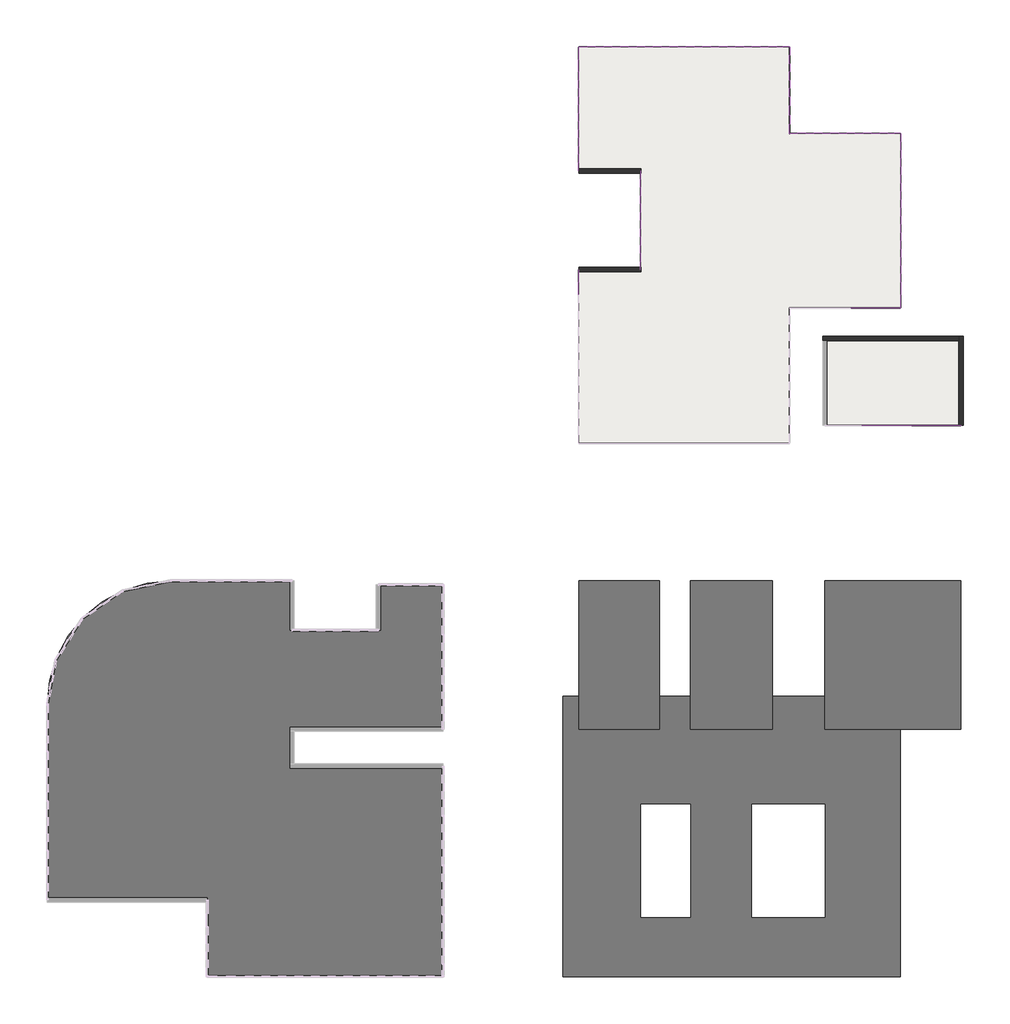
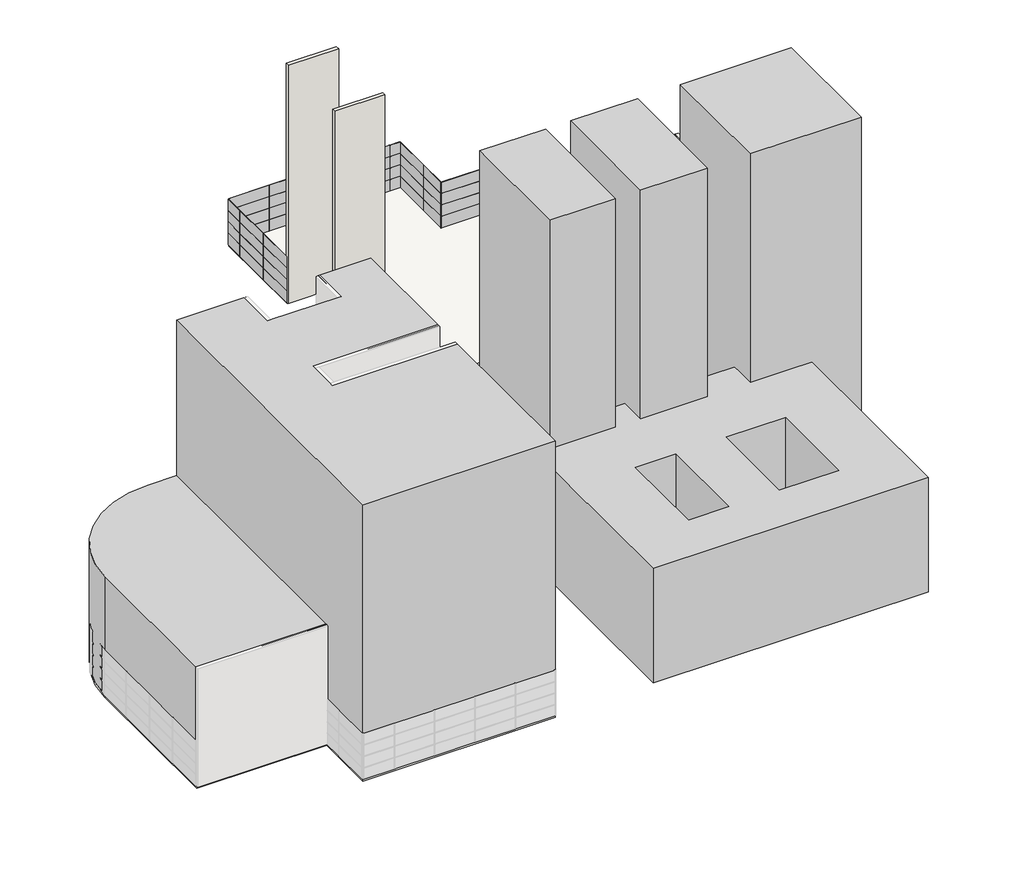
# One storey, part 5 of 5: 91 plates, 4 walls, 2 proxies, 2 slabs.
"""IFC4 building model written with IfcOpenShell, lengths in millimetres."""

from ifc_helpers import new_model, si_unit, point, frame, frame_2d, origin, origin_with_axes, place, context, project, spatial, polyline, circle_curve, trimmed, segment, composite_curve, outline, extrude, faceted_brep, transform, mapped, element, save
from ifc_brep_helpers import plane_surface, cylinder_surface, advanced_brep
from components import system_panel_glazed_d6eabcf1, system_panel_glazed_926b6355, system_panel_glazed_d9fb9d0a, system_panel_glazed_4df6a082, system_panel_glazed_76089698

model = new_model("IFC4")

# Units and contexts
model_context = context("Model", 3, world=origin())
ifc_project = project(units=[si_unit("LENGTHUNIT", "METRE", prefix="MILLI")], contexts=[model_context])

# Site, building, storey
site = spatial("IfcSite", under=ifc_project)
building = spatial("IfcBuilding", under=site)
storey = spatial("IfcBuildingStorey", under=building, Name="Suteren", Elevation=0.0)

# Proxies
placement = place(None, origin())
element("IfcBuildingElementProxy", 1, Name="Budova 3 : Budova 3", ObjectType="Budova 3 : Budova 3", at=placement, inside=storey, context=model_context, shape_type="AdvancedBrep", body=[
    advanced_brep(
    [(-5587.173406, 8375.9839566, 28773.2453384), (-5587.173406, -23624.0160434, 28773.2453384), (13503.2660975, -23624.0160434, 28773.2453384), (13503.2660975, -6624.0160434, 28773.2453384), (1278.419219, -6624.0160434, 28773.2453384), (1278.419219, -3624.0160434, 28773.2453384), (13503.2660975, -3624.0160434, 28773.2453384), (13503.2660975, 8039.3555415, 28773.2453384), (8278.419219, 8039.3555415, 28773.2453384), (8278.419219, 4375.9839566, 28773.2453384), (1278.419219, 4375.9839566, 28773.2453384), (1278.419219, 8375.9839566, 28773.2453384), (-18496.7339025, -17423.5291324, 0.0), (-18496.7339025, -1624.0160434, 0.0), (-8496.7339025, 8375.9839566, 0.0), (-5587.173406, 8375.9839566, 0.0), (1278.419219, 8375.9839566, 0.0), (1278.419219, 4375.9839566, 0.0), (8278.419219, 4375.9839566, 0.0), (8278.419219, 8039.3555415, 0.0), (13503.2660975, 8039.3555415, 0.0), (13503.2660975, -3624.0160434, 0.0), (1278.419219, -3624.0160434, 0.0), (1278.419219, -6624.0160434, 0.0), (13503.2660975, -6624.0160434, 0.0), (13503.2660975, -23624.0160434, 0.0), (-5587.173406, -23624.0160434, 0.0), (-5587.173406, -17423.5291324, 0.0), (-5587.173406, -17423.5291324, 12448.4924443), (-18496.7339025, -17423.5291324, 12448.4924443), (-5587.173406, 8375.9839566, 12448.4924443), (-8496.7339025, 8375.9839566, 12448.4924443), (-18496.7339025, -1624.0160434, 12448.4924443)],
    [
        (0, 1),
        (1, 2),
        (2, 3),
        (3, 4),
        (4, 5),
        (5, 6),
        (6, 7),
        (7, 8),
        (8, 9),
        (9, 10),
        (10, 11),
        (11, 0),
        (12, 13),
        (13, 14, circle_curve(frame((-8496.7339025, -1624.0160434, 0.0), z_axis=(0.0, 0.0, -1.0), x_axis=(1.0, 0.0, 0.0)), 10000.0)),
        (14, 15),
        (15, 16),
        (16, 17),
        (17, 18),
        (18, 19),
        (19, 20),
        (20, 21),
        (21, 22),
        (22, 23),
        (23, 24),
        (24, 25),
        (25, 26),
        (26, 27),
        (27, 12),
        (27, 28),
        (28, 29),
        (29, 12),
        (0, 30),
        (30, 28),
        (26, 1),
        (25, 2),
        (24, 3),
        (23, 4),
        (22, 5),
        (21, 6),
        (20, 7),
        (19, 8),
        (18, 9),
        (17, 10),
        (16, 11),
        (15, 30),
        (14, 31),
        (31, 30),
        (13, 32),
        (32, 31, circle_curve(frame((-8496.7339025, -1624.0160434, 12448.4924443), z_axis=(0.0, 0.0, -1.0), x_axis=(1.0, 0.0, 0.0)), 10000.0)),
        (29, 32),
    ],
    [
        plane_surface(frame((-18496.7339025, -17423.5291324, 28773.2453384), z_axis=(0.0, 0.0, 1.0), x_axis=(1.0, 0.0, 0.0))),
        plane_surface(frame((-18496.7339025, -17423.5291324, 0.0), z_axis=(0.0, 0.0, -1.0), x_axis=(-1.0, 0.0, 0.0))),
        plane_surface(frame((-18496.7339025, -17423.5291324, 28773.2453384), z_axis=(0.0, -1.0, 0.0), x_axis=(0.0, 0.0, -1.0))),
        plane_surface(frame((-5587.173406, -17423.5291324, 28773.2453384), z_axis=(-1.0, 0.0, 0.0), x_axis=(0.0, 0.0, -1.0))),
        plane_surface(frame((-5587.173406, -23624.0160434, 28773.2453384), z_axis=(0.0, -1.0, 0.0), x_axis=(0.0, 0.0, -1.0))),
        plane_surface(frame((13503.2660975, -23624.0160434, 28773.2453384), z_axis=(1.0, 0.0, 0.0), x_axis=(0.0, 0.0, -1.0))),
        plane_surface(frame((13503.2660975, -6624.0160434, 28773.2453384), z_axis=(0.0, 1.0, 0.0), x_axis=(0.0, 0.0, -1.0))),
        plane_surface(frame((1278.419219, -6624.0160434, 28773.2453384), z_axis=(1.0, 0.0, 0.0), x_axis=(0.0, 0.0, -1.0))),
        plane_surface(frame((1278.419219, -3624.0160434, 28773.2453384), z_axis=(0.0, -1.0, 0.0), x_axis=(0.0, 0.0, -1.0))),
        plane_surface(frame((13503.2660975, -3624.0160434, 28773.2453384), z_axis=(1.0, 0.0, 0.0), x_axis=(0.0, 0.0, -1.0))),
        plane_surface(frame((13503.2660975, 8039.3555415, 28773.2453384), z_axis=(0.0, 1.0, 0.0), x_axis=(0.0, 0.0, -1.0))),
        plane_surface(frame((8278.419219, 8039.3555415, 28773.2453384), z_axis=(-1.0, 0.0, 0.0), x_axis=(0.0, 0.0, -1.0))),
        plane_surface(frame((8278.419219, 4375.9839566, 28773.2453384), z_axis=(0.0, 1.0, 0.0), x_axis=(0.0, 0.0, -1.0))),
        plane_surface(frame((1278.419219, 4375.9839566, 28773.2453384), z_axis=(1.0, 0.0, 0.0), x_axis=(0.0, 0.0, -1.0))),
        plane_surface(frame((1278.419219, 8375.9839566, 28773.2453384), z_axis=(0.0, 1.0, 0.0), x_axis=(0.0, 0.0, -1.0))),
        plane_surface(frame((-5587.173406, 8375.9839566, 28773.2453384), z_axis=(0.0, 1.0, 0.0), x_axis=(0.0, 0.0, -1.0))),
        cylinder_surface(frame((-8496.7339025, -1624.0160434, 0.0), z_axis=(0.0, 0.0, 1.0), x_axis=(1.0, 0.0, 0.0)), 10000.0),
        plane_surface(frame((-18496.7339025, -1624.0160434, 28773.2453384), z_axis=(-1.0, 0.0, 0.0), x_axis=(0.0, 0.0, -1.0))),
        plane_surface(frame((-5587.173406, 14419.6192508, 12448.4924443), z_axis=(0.0, 0.0, 1.0), x_axis=(0.0, -1.0, 0.0))),
    ],
    [
        (0, [[1, 2, 3, 4, 5, 6, 7, 8, 9, 10, 11, 12]]),
        (1, [[13, 14, 15, 16, 17, 18, 19, 20, 21, 22, 23, 24, 25, 26, 27, 28]]),
        (2, [[-28, 29, 30, 31]]),
        (3, [[32, 33, -29, -27, 34, -1]]),
        (4, [[-2, -34, -26, 35]]),
        (5, [[-3, -35, -25, 36]]),
        (6, [[-4, -36, -24, 37]]),
        (7, [[-5, -37, -23, 38]]),
        (8, [[-6, -38, -22, 39]]),
        (9, [[-7, -39, -21, 40]]),
        (10, [[-8, -40, -20, 41]]),
        (11, [[-9, -41, -19, 42]]),
        (12, [[-10, -42, -18, 43]]),
        (13, [[-11, -43, -17, 44]]),
        (14, [[-12, -44, -16, 45, -32]]),
        (15, [[-15, 46, 47, -45]]),
        (16, [[-14, 48, 49, -46]]),
        (17, [[-13, -31, 50, -48]]),
        (18, [[-33, -47, -49, -50, -30]]),
    ],
),
])
element("IfcBuildingElementProxy", 2, Name="Budova 4 : Budova 4", ObjectType="Budova 4 : Budova 4", at=placement, inside=storey, context=model_context, shape_type="SweptSolid", body=[
    extrude(outline(polyline([(31028.3078366, 8375.9839566), (31028.3078366, -3624.0160434), (24503.2660975, -3624.0160434), (24503.2660975, 8375.9839566), (31028.3078366, 8375.9839566)])), origin_with_axes(), (0.0, 0.0, 1.0), 36000.0),
    extrude(outline(polyline([(40154.0002696, 8375.9839566), (40154.0002696, -3624.0160434), (33503.2660975, -3624.0160434), (33503.2660975, 8375.9839566), (40154.0002696, 8375.9839566)])), origin_with_axes(), (0.0, 0.0, 1.0), 36000.0),
    extrude(outline(polyline([(44401.4778879, -3624.0160434), (44401.4778879, 8375.9839566), (55401.4778879, 8375.9839566), (55401.4778879, -3624.0160434), (44401.4778879, -3624.0160434)])), origin_with_axes(), (0.0, 0.0, 1.0), 36000.0),
    extrude(outline(polyline([(24503.2660975, -967.486669), (24503.2660975, -3624.0160434), (31028.3078366, -3624.0160434), (31028.3078366, -967.486669), (33503.2660975, -967.486669), (33503.2660975, -3624.0160434), (40154.0002696, -3624.0160434), (40154.0002696, -967.486669), (44401.4778879, -967.486669), (44401.4778879, -3624.0160434), (50503.2660975, -3624.0160434), (50503.2660975, -23624.0160434), (23208.2992989, -23624.0160434), (23208.2992989, -967.486669), (24503.2660975, -967.486669)]), holes=[polyline([(44401.4778879, -9707.9757481), (38503.2660975, -9707.9757481), (38503.2660975, -18836.9310085), (44401.4778879, -18836.9310085), (44401.4778879, -9707.9757481)]), polyline([(33503.2660975, -9707.9757481), (29503.2660975, -9707.9757481), (29503.2660975, -18836.9310085), (33503.2660975, -18836.9310085), (33503.2660975, -9707.9757481)])]), origin_with_axes(), (0.0, 0.0, 1.0), 12000.0),
])

# Plates
system_panel_glazed_shape = system_panel_glazed_d6eabcf1(model_context)
element("IfcPlate", 3, ObjectType="System Panel : Glazed", at=placement, inside=storey, context=model_context, shape_type="MappedRepresentation", body=[
    mapped(system_panel_glazed_shape, transform((29503.2660975, 35519.7749227, 0.0), x_axis=(0.0, 1.0, 0.0), y_axis=(-1.0, 0.0, 0.0), z_axis=(0.0, 0.0, 1.0))),
])
element("IfcPlate", 4, ObjectType="System Panel : Glazed", at=placement, inside=storey, context=model_context, shape_type="MappedRepresentation", body=[
    mapped(system_panel_glazed_shape, transform((24503.2660975, 43519.7749227, 0.0), x_axis=(0.0, 1.0, 0.0), y_axis=(-1.0, 0.0, 0.0), z_axis=(0.0, 0.0, 1.0))),
])
element("IfcPlate", 5, ObjectType="System Panel : Glazed", at=placement, inside=storey, context=model_context, shape_type="MappedRepresentation", body=[
    mapped(system_panel_glazed_shape, transform((48503.2660975, 30457.4517739, 0.0), x_axis=(-1.0, 0.0, 0.0), y_axis=(0.0, -1.0, 0.0), z_axis=(0.0, 0.0, 1.0))),
])
element("IfcPlate", 6, ObjectType="System Panel : Glazed", at=placement, inside=storey, context=model_context, shape_type="MappedRepresentation", body=[
    mapped(system_panel_glazed_shape, transform((53401.4778879, 20957.9625489, 0.0), x_axis=(-1.0, 0.0, 0.0), y_axis=(0.0, -1.0, 0.0), z_axis=(0.0, 0.0, 1.0))),
])
element("IfcPlate", 7, ObjectType="System Panel : Glazed", at=placement, inside=storey, context=model_context, shape_type="MappedRepresentation", body=[
    mapped(system_panel_glazed_shape, transform((29503.2660975, 39519.7749227, 0.0), x_axis=(0.0, 1.0, 0.0), y_axis=(-1.0, 0.0, 0.0), z_axis=(0.0, 0.0, 1.0))),
])
element("IfcPlate", 8, ObjectType="System Panel : Glazed", at=placement, inside=storey, context=model_context, shape_type="MappedRepresentation", body=[
    mapped(system_panel_glazed_shape, transform((29503.2660975, 35519.7749227, 1200.0), x_axis=(0.0, 1.0, 0.0), y_axis=(-1.0, 0.0, 0.0), z_axis=(0.0, 0.0, 1.0))),
])
element("IfcPlate", 9, ObjectType="System Panel : Glazed", at=placement, inside=storey, context=model_context, shape_type="MappedRepresentation", body=[
    mapped(system_panel_glazed_shape, transform((29503.2660975, 39519.7749227, 1200.0), x_axis=(0.0, 1.0, 0.0), y_axis=(-1.0, 0.0, 0.0), z_axis=(0.0, 0.0, 1.0))),
])
element("IfcPlate", 10, ObjectType="System Panel : Glazed", at=placement, inside=storey, context=model_context, shape_type="MappedRepresentation", body=[
    mapped(system_panel_glazed_shape, transform((29503.2660975, 35519.7749227, 2400.0), x_axis=(0.0, 1.0, 0.0), y_axis=(-1.0, 0.0, 0.0), z_axis=(0.0, 0.0, 1.0))),
])
element("IfcPlate", 11, ObjectType="System Panel : Glazed", at=placement, inside=storey, context=model_context, shape_type="MappedRepresentation", body=[
    mapped(system_panel_glazed_shape, transform((29503.2660975, 39519.7749227, 2400.0), x_axis=(0.0, 1.0, 0.0), y_axis=(-1.0, 0.0, 0.0), z_axis=(0.0, 0.0, 1.0))),
])
element("IfcPlate", 12, ObjectType="System Panel : Glazed", at=placement, inside=storey, context=model_context, shape_type="MappedRepresentation", body=[
    mapped(system_panel_glazed_shape, transform((29503.2660975, 35519.7749227, 3600.0), x_axis=(0.0, 1.0, 0.0), y_axis=(-1.0, 0.0, 0.0), z_axis=(0.0, 0.0, 1.0))),
])
element("IfcPlate", 13, ObjectType="System Panel : Glazed", at=placement, inside=storey, context=model_context, shape_type="MappedRepresentation", body=[
    mapped(system_panel_glazed_shape, transform((29503.2660975, 39519.7749227, 3600.0), x_axis=(0.0, 1.0, 0.0), y_axis=(-1.0, 0.0, 0.0), z_axis=(0.0, 0.0, 1.0))),
])
element("IfcPlate", 14, ObjectType="System Panel : Glazed", at=placement, inside=storey, context=model_context, shape_type="MappedRepresentation", body=[
    mapped(system_panel_glazed_shape, transform((24503.2660975, 47519.7749227, 0.0), x_axis=(0.0, 1.0, 0.0), y_axis=(-1.0, 0.0, 0.0), z_axis=(0.0, 0.0, 1.0))),
])
element("IfcPlate", 15, ObjectType="System Panel : Glazed", at=placement, inside=storey, context=model_context, shape_type="MappedRepresentation", body=[
    mapped(system_panel_glazed_shape, transform((24503.2660975, 43519.7749227, 1200.0), x_axis=(0.0, 1.0, 0.0), y_axis=(-1.0, 0.0, 0.0), z_axis=(0.0, 0.0, 1.0))),
])
element("IfcPlate", 16, ObjectType="System Panel : Glazed", at=placement, inside=storey, context=model_context, shape_type="MappedRepresentation", body=[
    mapped(system_panel_glazed_shape, transform((24503.2660975, 47519.7749227, 1200.0), x_axis=(0.0, 1.0, 0.0), y_axis=(-1.0, 0.0, 0.0), z_axis=(0.0, 0.0, 1.0))),
])
element("IfcPlate", 17, ObjectType="System Panel : Glazed", at=placement, inside=storey, context=model_context, shape_type="MappedRepresentation", body=[
    mapped(system_panel_glazed_shape, transform((24503.2660975, 43519.7749227, 2400.0), x_axis=(0.0, 1.0, 0.0), y_axis=(-1.0, 0.0, 0.0), z_axis=(0.0, 0.0, 1.0))),
])
element("IfcPlate", 18, ObjectType="System Panel : Glazed", at=placement, inside=storey, context=model_context, shape_type="MappedRepresentation", body=[
    mapped(system_panel_glazed_shape, transform((24503.2660975, 47519.7749227, 2400.0), x_axis=(0.0, 1.0, 0.0), y_axis=(-1.0, 0.0, 0.0), z_axis=(0.0, 0.0, 1.0))),
])
element("IfcPlate", 19, ObjectType="System Panel : Glazed", at=placement, inside=storey, context=model_context, shape_type="MappedRepresentation", body=[
    mapped(system_panel_glazed_shape, transform((24503.2660975, 43519.7749227, 3600.0), x_axis=(0.0, 1.0, 0.0), y_axis=(-1.0, 0.0, 0.0), z_axis=(0.0, 0.0, 1.0))),
])
element("IfcPlate", 20, ObjectType="System Panel : Glazed", at=placement, inside=storey, context=model_context, shape_type="MappedRepresentation", body=[
    mapped(system_panel_glazed_shape, transform((24503.2660975, 47519.7749227, 3600.0), x_axis=(0.0, 1.0, 0.0), y_axis=(-1.0, 0.0, 0.0), z_axis=(0.0, 0.0, 1.0))),
])
element("IfcPlate", 21, ObjectType="System Panel : Glazed", at=placement, inside=storey, context=model_context, shape_type="MappedRepresentation", body=[
    mapped(system_panel_glazed_shape, transform((48503.2660975, 30457.4517739, 1200.0), x_axis=(-1.0, 0.0, 0.0), y_axis=(0.0, -1.0, 0.0), z_axis=(0.0, 0.0, 1.0))),
])
element("IfcPlate", 22, ObjectType="System Panel : Glazed", at=placement, inside=storey, context=model_context, shape_type="MappedRepresentation", body=[
    mapped(system_panel_glazed_shape, transform((48503.2660975, 30457.4517739, 2400.0), x_axis=(-1.0, 0.0, 0.0), y_axis=(0.0, -1.0, 0.0), z_axis=(0.0, 0.0, 1.0))),
])
element("IfcPlate", 23, ObjectType="System Panel : Glazed", at=placement, inside=storey, context=model_context, shape_type="MappedRepresentation", body=[
    mapped(system_panel_glazed_shape, transform((48503.2660975, 30457.4517739, 3600.0), x_axis=(-1.0, 0.0, 0.0), y_axis=(0.0, -1.0, 0.0), z_axis=(0.0, 0.0, 1.0))),
])
element("IfcPlate", 24, ObjectType="System Panel : Glazed", at=placement, inside=storey, context=model_context, shape_type="MappedRepresentation", body=[
    mapped(system_panel_glazed_shape, transform((53401.4778879, 20957.9625489, 1200.0), x_axis=(-1.0, 0.0, 0.0), y_axis=(0.0, -1.0, 0.0), z_axis=(0.0, 0.0, 1.0))),
])
element("IfcPlate", 25, ObjectType="System Panel : Glazed", at=placement, inside=storey, context=model_context, shape_type="MappedRepresentation", body=[
    mapped(system_panel_glazed_shape, transform((49401.4778879, 20957.9625489, 1200.0), x_axis=(-1.0, 0.0, 0.0), y_axis=(0.0, -1.0, 0.0), z_axis=(0.0, 0.0, 1.0))),
])
element("IfcPlate", 26, ObjectType="System Panel : Glazed", at=placement, inside=storey, context=model_context, shape_type="MappedRepresentation", body=[
    mapped(system_panel_glazed_shape, transform((53401.4778879, 20957.9625489, 2400.0), x_axis=(-1.0, 0.0, 0.0), y_axis=(0.0, -1.0, 0.0), z_axis=(0.0, 0.0, 1.0))),
])
element("IfcPlate", 27, ObjectType="System Panel : Glazed", at=placement, inside=storey, context=model_context, shape_type="MappedRepresentation", body=[
    mapped(system_panel_glazed_shape, transform((49401.4778879, 20957.9625489, 2400.0), x_axis=(-1.0, 0.0, 0.0), y_axis=(0.0, -1.0, 0.0), z_axis=(0.0, 0.0, 1.0))),
])
element("IfcPlate", 28, ObjectType="System Panel : Glazed", at=placement, inside=storey, context=model_context, shape_type="MappedRepresentation", body=[
    mapped(system_panel_glazed_shape, transform((53401.4778879, 20957.9625489, 3600.0), x_axis=(-1.0, 0.0, 0.0), y_axis=(0.0, -1.0, 0.0), z_axis=(0.0, 0.0, 1.0))),
])
element("IfcPlate", 29, ObjectType="System Panel : Glazed", at=placement, inside=storey, context=model_context, shape_type="MappedRepresentation", body=[
    mapped(system_panel_glazed_shape, transform((49401.4778879, 20957.9625489, 3600.0), x_axis=(-1.0, 0.0, 0.0), y_axis=(0.0, -1.0, 0.0), z_axis=(0.0, 0.0, 1.0))),
])
element("IfcPlate", 30, ObjectType="System Panel : Glazed", at=placement, inside=storey, context=model_context, shape_type="MappedRepresentation", body=[
    mapped(system_panel_glazed_shape, transform((26503.2660975, 51519.7749227, 0.0), x_axis=(1.0, 0.0, 0.0), y_axis=(0.0, 1.0, 0.0), z_axis=(0.0, 0.0, 1.0))),
])
element("IfcPlate", 31, ObjectType="System Panel : Glazed", at=placement, inside=storey, context=model_context, shape_type="MappedRepresentation", body=[
    mapped(system_panel_glazed_shape, transform((41503.2660975, 49519.7749227, 0.0), x_axis=(0.0, -1.0, 0.0), y_axis=(1.0, 0.0, 0.0), z_axis=(0.0, 0.0, 1.0))),
])
element("IfcPlate", 32, ObjectType="System Panel : Glazed", at=placement, inside=storey, context=model_context, shape_type="MappedRepresentation", body=[
    mapped(system_panel_glazed_shape, transform((43503.2660975, 44519.7749227, 0.0), x_axis=(1.0, 0.0, 0.0), y_axis=(0.0, 1.0, 0.0), z_axis=(0.0, 0.0, 1.0))),
])
element("IfcPlate", 33, ObjectType="System Panel : Glazed", at=placement, inside=storey, context=model_context, shape_type="MappedRepresentation", body=[
    mapped(system_panel_glazed_shape, transform((50503.2660975, 42519.7749227, 0.0), x_axis=(0.0, -1.0, 0.0), y_axis=(1.0, 0.0, 0.0), z_axis=(0.0, 0.0, 1.0))),
])
element("IfcPlate", 34, ObjectType="System Panel : Glazed", at=placement, inside=storey, context=model_context, shape_type="MappedRepresentation", body=[
    mapped(system_panel_glazed_shape, transform((30503.2660975, 51519.7749227, 0.0), x_axis=(1.0, 0.0, 0.0), y_axis=(0.0, 1.0, 0.0), z_axis=(0.0, 0.0, 1.0))),
])
element("IfcPlate", 35, ObjectType="System Panel : Glazed", at=placement, inside=storey, context=model_context, shape_type="MappedRepresentation", body=[
    mapped(system_panel_glazed_shape, transform((34503.2660975, 51519.7749227, 0.0), x_axis=(1.0, 0.0, 0.0), y_axis=(0.0, 1.0, 0.0), z_axis=(0.0, 0.0, 1.0))),
])
element("IfcPlate", 36, ObjectType="System Panel : Glazed", at=placement, inside=storey, context=model_context, shape_type="MappedRepresentation", body=[
    mapped(system_panel_glazed_shape, transform((38503.2660975, 51519.7749227, 0.0), x_axis=(1.0, 0.0, 0.0), y_axis=(0.0, 1.0, 0.0), z_axis=(0.0, 0.0, 1.0))),
])
element("IfcPlate", 37, ObjectType="System Panel : Glazed", at=placement, inside=storey, context=model_context, shape_type="MappedRepresentation", body=[
    mapped(system_panel_glazed_shape, transform((26503.2660975, 51519.7749227, 1200.0), x_axis=(1.0, 0.0, 0.0), y_axis=(0.0, 1.0, 0.0), z_axis=(0.0, 0.0, 1.0))),
])
element("IfcPlate", 38, ObjectType="System Panel : Glazed", at=placement, inside=storey, context=model_context, shape_type="MappedRepresentation", body=[
    mapped(system_panel_glazed_shape, transform((30503.2660975, 51519.7749227, 1200.0), x_axis=(1.0, 0.0, 0.0), y_axis=(0.0, 1.0, 0.0), z_axis=(0.0, 0.0, 1.0))),
])
element("IfcPlate", 39, ObjectType="System Panel : Glazed", at=placement, inside=storey, context=model_context, shape_type="MappedRepresentation", body=[
    mapped(system_panel_glazed_shape, transform((34503.2660975, 51519.7749227, 1200.0), x_axis=(1.0, 0.0, 0.0), y_axis=(0.0, 1.0, 0.0), z_axis=(0.0, 0.0, 1.0))),
])
element("IfcPlate", 40, ObjectType="System Panel : Glazed", at=placement, inside=storey, context=model_context, shape_type="MappedRepresentation", body=[
    mapped(system_panel_glazed_shape, transform((38503.2660975, 51519.7749227, 1200.0), x_axis=(1.0, 0.0, 0.0), y_axis=(0.0, 1.0, 0.0), z_axis=(0.0, 0.0, 1.0))),
])
element("IfcPlate", 41, ObjectType="System Panel : Glazed", at=placement, inside=storey, context=model_context, shape_type="MappedRepresentation", body=[
    mapped(system_panel_glazed_shape, transform((26503.2660975, 51519.7749227, 2400.0), x_axis=(1.0, 0.0, 0.0), y_axis=(0.0, 1.0, 0.0), z_axis=(0.0, 0.0, 1.0))),
])
element("IfcPlate", 42, ObjectType="System Panel : Glazed", at=placement, inside=storey, context=model_context, shape_type="MappedRepresentation", body=[
    mapped(system_panel_glazed_shape, transform((30503.2660975, 51519.7749227, 2400.0), x_axis=(1.0, 0.0, 0.0), y_axis=(0.0, 1.0, 0.0), z_axis=(0.0, 0.0, 1.0))),
])
element("IfcPlate", 43, ObjectType="System Panel : Glazed", at=placement, inside=storey, context=model_context, shape_type="MappedRepresentation", body=[
    mapped(system_panel_glazed_shape, transform((34503.2660975, 51519.7749227, 2400.0), x_axis=(1.0, 0.0, 0.0), y_axis=(0.0, 1.0, 0.0), z_axis=(0.0, 0.0, 1.0))),
])
element("IfcPlate", 44, ObjectType="System Panel : Glazed", at=placement, inside=storey, context=model_context, shape_type="MappedRepresentation", body=[
    mapped(system_panel_glazed_shape, transform((38503.2660975, 51519.7749227, 2400.0), x_axis=(1.0, 0.0, 0.0), y_axis=(0.0, 1.0, 0.0), z_axis=(0.0, 0.0, 1.0))),
])
element("IfcPlate", 45, ObjectType="System Panel : Glazed", at=placement, inside=storey, context=model_context, shape_type="MappedRepresentation", body=[
    mapped(system_panel_glazed_shape, transform((26503.2660975, 51519.7749227, 3600.0), x_axis=(1.0, 0.0, 0.0), y_axis=(0.0, 1.0, 0.0), z_axis=(0.0, 0.0, 1.0))),
])
element("IfcPlate", 46, ObjectType="System Panel : Glazed", at=placement, inside=storey, context=model_context, shape_type="MappedRepresentation", body=[
    mapped(system_panel_glazed_shape, transform((30503.2660975, 51519.7749227, 3600.0), x_axis=(1.0, 0.0, 0.0), y_axis=(0.0, 1.0, 0.0), z_axis=(0.0, 0.0, 1.0))),
])
element("IfcPlate", 47, ObjectType="System Panel : Glazed", at=placement, inside=storey, context=model_context, shape_type="MappedRepresentation", body=[
    mapped(system_panel_glazed_shape, transform((34503.2660975, 51519.7749227, 3600.0), x_axis=(1.0, 0.0, 0.0), y_axis=(0.0, 1.0, 0.0), z_axis=(0.0, 0.0, 1.0))),
])
element("IfcPlate", 48, ObjectType="System Panel : Glazed", at=placement, inside=storey, context=model_context, shape_type="MappedRepresentation", body=[
    mapped(system_panel_glazed_shape, transform((38503.2660975, 51519.7749227, 3600.0), x_axis=(1.0, 0.0, 0.0), y_axis=(0.0, 1.0, 0.0), z_axis=(0.0, 0.0, 1.0))),
])
element("IfcPlate", 49, ObjectType="System Panel : Glazed", at=placement, inside=storey, context=model_context, shape_type="MappedRepresentation", body=[
    mapped(system_panel_glazed_shape, transform((41503.2660975, 49519.7749227, 1200.0), x_axis=(0.0, -1.0, 0.0), y_axis=(1.0, 0.0, 0.0), z_axis=(0.0, 0.0, 1.0))),
])
element("IfcPlate", 50, ObjectType="System Panel : Glazed", at=placement, inside=storey, context=model_context, shape_type="MappedRepresentation", body=[
    mapped(system_panel_glazed_shape, transform((41503.2660975, 49519.7749227, 2400.0), x_axis=(0.0, -1.0, 0.0), y_axis=(1.0, 0.0, 0.0), z_axis=(0.0, 0.0, 1.0))),
])
element("IfcPlate", 51, ObjectType="System Panel : Glazed", at=placement, inside=storey, context=model_context, shape_type="MappedRepresentation", body=[
    mapped(system_panel_glazed_shape, transform((41503.2660975, 49519.7749227, 3600.0), x_axis=(0.0, -1.0, 0.0), y_axis=(1.0, 0.0, 0.0), z_axis=(0.0, 0.0, 1.0))),
])
element("IfcPlate", 52, ObjectType="System Panel : Glazed", at=placement, inside=storey, context=model_context, shape_type="MappedRepresentation", body=[
    mapped(system_panel_glazed_shape, transform((47503.2660975, 44519.7749227, 0.0), x_axis=(1.0, 0.0, 0.0), y_axis=(0.0, 1.0, 0.0), z_axis=(0.0, 0.0, 1.0))),
])
element("IfcPlate", 53, ObjectType="System Panel : Glazed", at=placement, inside=storey, context=model_context, shape_type="MappedRepresentation", body=[
    mapped(system_panel_glazed_shape, transform((43503.2660975, 44519.7749227, 1200.0), x_axis=(1.0, 0.0, 0.0), y_axis=(0.0, 1.0, 0.0), z_axis=(0.0, 0.0, 1.0))),
])
element("IfcPlate", 54, ObjectType="System Panel : Glazed", at=placement, inside=storey, context=model_context, shape_type="MappedRepresentation", body=[
    mapped(system_panel_glazed_shape, transform((47503.2660975, 44519.7749227, 1200.0), x_axis=(1.0, 0.0, 0.0), y_axis=(0.0, 1.0, 0.0), z_axis=(0.0, 0.0, 1.0))),
])
element("IfcPlate", 55, ObjectType="System Panel : Glazed", at=placement, inside=storey, context=model_context, shape_type="MappedRepresentation", body=[
    mapped(system_panel_glazed_shape, transform((43503.2660975, 44519.7749227, 2400.0), x_axis=(1.0, 0.0, 0.0), y_axis=(0.0, 1.0, 0.0), z_axis=(0.0, 0.0, 1.0))),
])
element("IfcPlate", 56, ObjectType="System Panel : Glazed", at=placement, inside=storey, context=model_context, shape_type="MappedRepresentation", body=[
    mapped(system_panel_glazed_shape, transform((47503.2660975, 44519.7749227, 2400.0), x_axis=(1.0, 0.0, 0.0), y_axis=(0.0, 1.0, 0.0), z_axis=(0.0, 0.0, 1.0))),
])
element("IfcPlate", 57, ObjectType="System Panel : Glazed", at=placement, inside=storey, context=model_context, shape_type="MappedRepresentation", body=[
    mapped(system_panel_glazed_shape, transform((43503.2660975, 44519.7749227, 3600.0), x_axis=(1.0, 0.0, 0.0), y_axis=(0.0, 1.0, 0.0), z_axis=(0.0, 0.0, 1.0))),
])
element("IfcPlate", 58, ObjectType="System Panel : Glazed", at=placement, inside=storey, context=model_context, shape_type="MappedRepresentation", body=[
    mapped(system_panel_glazed_shape, transform((47503.2660975, 44519.7749227, 3600.0), x_axis=(1.0, 0.0, 0.0), y_axis=(0.0, 1.0, 0.0), z_axis=(0.0, 0.0, 1.0))),
])
element("IfcPlate", 59, ObjectType="System Panel : Glazed", at=placement, inside=storey, context=model_context, shape_type="MappedRepresentation", body=[
    mapped(system_panel_glazed_shape, transform((50503.2660975, 38519.7749227, 0.0), x_axis=(0.0, -1.0, 0.0), y_axis=(1.0, 0.0, 0.0), z_axis=(0.0, 0.0, 1.0))),
])
element("IfcPlate", 60, ObjectType="System Panel : Glazed", at=placement, inside=storey, context=model_context, shape_type="MappedRepresentation", body=[
    mapped(system_panel_glazed_shape, transform((50503.2660975, 34519.7749227, 0.0), x_axis=(0.0, -1.0, 0.0), y_axis=(1.0, 0.0, 0.0), z_axis=(0.0, 0.0, 1.0))),
])
element("IfcPlate", 61, ObjectType="System Panel : Glazed", at=placement, inside=storey, context=model_context, shape_type="MappedRepresentation", body=[
    mapped(system_panel_glazed_shape, transform((50503.2660975, 42519.7749227, 1200.0), x_axis=(0.0, -1.0, 0.0), y_axis=(1.0, 0.0, 0.0), z_axis=(0.0, 0.0, 1.0))),
])
element("IfcPlate", 62, ObjectType="System Panel : Glazed", at=placement, inside=storey, context=model_context, shape_type="MappedRepresentation", body=[
    mapped(system_panel_glazed_shape, transform((50503.2660975, 38519.7749227, 1200.0), x_axis=(0.0, -1.0, 0.0), y_axis=(1.0, 0.0, 0.0), z_axis=(0.0, 0.0, 1.0))),
])
element("IfcPlate", 63, ObjectType="System Panel : Glazed", at=placement, inside=storey, context=model_context, shape_type="MappedRepresentation", body=[
    mapped(system_panel_glazed_shape, transform((50503.2660975, 34519.7749227, 1200.0), x_axis=(0.0, -1.0, 0.0), y_axis=(1.0, 0.0, 0.0), z_axis=(0.0, 0.0, 1.0))),
])
element("IfcPlate", 64, ObjectType="System Panel : Glazed", at=placement, inside=storey, context=model_context, shape_type="MappedRepresentation", body=[
    mapped(system_panel_glazed_shape, transform((50503.2660975, 42519.7749227, 2400.0), x_axis=(0.0, -1.0, 0.0), y_axis=(1.0, 0.0, 0.0), z_axis=(0.0, 0.0, 1.0))),
])
element("IfcPlate", 65, ObjectType="System Panel : Glazed", at=placement, inside=storey, context=model_context, shape_type="MappedRepresentation", body=[
    mapped(system_panel_glazed_shape, transform((50503.2660975, 38519.7749227, 2400.0), x_axis=(0.0, -1.0, 0.0), y_axis=(1.0, 0.0, 0.0), z_axis=(0.0, 0.0, 1.0))),
])
element("IfcPlate", 66, ObjectType="System Panel : Glazed", at=placement, inside=storey, context=model_context, shape_type="MappedRepresentation", body=[
    mapped(system_panel_glazed_shape, transform((50503.2660975, 34519.7749227, 2400.0), x_axis=(0.0, -1.0, 0.0), y_axis=(1.0, 0.0, 0.0), z_axis=(0.0, 0.0, 1.0))),
])
element("IfcPlate", 67, ObjectType="System Panel : Glazed", at=placement, inside=storey, context=model_context, shape_type="MappedRepresentation", body=[
    mapped(system_panel_glazed_shape, transform((50503.2660975, 42519.7749227, 3600.0), x_axis=(0.0, -1.0, 0.0), y_axis=(1.0, 0.0, 0.0), z_axis=(0.0, 0.0, 1.0))),
])
element("IfcPlate", 68, ObjectType="System Panel : Glazed", at=placement, inside=storey, context=model_context, shape_type="MappedRepresentation", body=[
    mapped(system_panel_glazed_shape, transform((50503.2660975, 38519.7749227, 3600.0), x_axis=(0.0, -1.0, 0.0), y_axis=(1.0, 0.0, 0.0), z_axis=(0.0, 0.0, 1.0))),
])
element("IfcPlate", 69, ObjectType="System Panel : Glazed", at=placement, inside=storey, context=model_context, shape_type="MappedRepresentation", body=[
    mapped(system_panel_glazed_shape, transform((50503.2660975, 34519.7749227, 3600.0), x_axis=(0.0, -1.0, 0.0), y_axis=(1.0, 0.0, 0.0), z_axis=(0.0, 0.0, 1.0))),
])
system_panel_glazed_2_shape = system_panel_glazed_926b6355(model_context)
element("IfcPlate", 70, ObjectType="System Panel : Glazed", at=placement, inside=storey, context=model_context, shape_type="MappedRepresentation", body=[
    mapped(system_panel_glazed_2_shape, transform((41003.2660975, 51519.7749227, 0.0), x_axis=(1.0, 0.0, 0.0), y_axis=(0.0, 1.0, 0.0), z_axis=(0.0, 0.0, 1.0))),
])
element("IfcPlate", 71, ObjectType="System Panel : Glazed", at=placement, inside=storey, context=model_context, shape_type="MappedRepresentation", body=[
    mapped(system_panel_glazed_2_shape, transform((41003.2660975, 51519.7749227, 1200.0), x_axis=(1.0, 0.0, 0.0), y_axis=(0.0, 1.0, 0.0), z_axis=(0.0, 0.0, 1.0))),
])
element("IfcPlate", 72, ObjectType="System Panel : Glazed", at=placement, inside=storey, context=model_context, shape_type="MappedRepresentation", body=[
    mapped(system_panel_glazed_2_shape, transform((41003.2660975, 51519.7749227, 2400.0), x_axis=(1.0, 0.0, 0.0), y_axis=(0.0, 1.0, 0.0), z_axis=(0.0, 0.0, 1.0))),
])
element("IfcPlate", 73, ObjectType="System Panel : Glazed", at=placement, inside=storey, context=model_context, shape_type="MappedRepresentation", body=[
    mapped(system_panel_glazed_2_shape, transform((41003.2660975, 51519.7749227, 3600.0), x_axis=(1.0, 0.0, 0.0), y_axis=(0.0, 1.0, 0.0), z_axis=(0.0, 0.0, 1.0))),
])
element("IfcPlate", 74, ObjectType="System Panel : Glazed", at=placement, inside=storey, context=model_context, shape_type="MappedRepresentation", body=[
    mapped(system_panel_glazed_2_shape, transform((50003.2660975, 44519.7749227, 0.0), x_axis=(1.0, 0.0, 0.0), y_axis=(0.0, 1.0, 0.0), z_axis=(0.0, 0.0, 1.0))),
])
element("IfcPlate", 75, ObjectType="System Panel : Glazed", at=placement, inside=storey, context=model_context, shape_type="MappedRepresentation", body=[
    mapped(system_panel_glazed_2_shape, transform((50003.2660975, 44519.7749227, 1200.0), x_axis=(1.0, 0.0, 0.0), y_axis=(0.0, 1.0, 0.0), z_axis=(0.0, 0.0, 1.0))),
])
element("IfcPlate", 76, ObjectType="System Panel : Glazed", at=placement, inside=storey, context=model_context, shape_type="MappedRepresentation", body=[
    mapped(system_panel_glazed_2_shape, transform((50003.2660975, 44519.7749227, 2400.0), x_axis=(1.0, 0.0, 0.0), y_axis=(0.0, 1.0, 0.0), z_axis=(0.0, 0.0, 1.0))),
])
element("IfcPlate", 77, ObjectType="System Panel : Glazed", at=placement, inside=storey, context=model_context, shape_type="MappedRepresentation", body=[
    mapped(system_panel_glazed_2_shape, transform((50003.2660975, 44519.7749227, 3600.0), x_axis=(1.0, 0.0, 0.0), y_axis=(0.0, 1.0, 0.0), z_axis=(0.0, 0.0, 1.0))),
])
system_panel_glazed_3_shape = system_panel_glazed_d9fb9d0a(model_context)
element("IfcPlate", 78, ObjectType="System Panel : Glazed", at=placement, inside=storey, context=model_context, shape_type="MappedRepresentation", body=[
    mapped(system_panel_glazed_3_shape, transform((24503.2660975, 32519.7749227, 0.0), x_axis=(0.0, 1.0, 0.0), y_axis=(-1.0, 0.0, 0.0), z_axis=(0.0, 0.0, 1.0))),
])
element("IfcPlate", 79, ObjectType="System Panel : Glazed", at=placement, inside=storey, context=model_context, shape_type="MappedRepresentation", body=[
    mapped(system_panel_glazed_3_shape, transform((24503.2660975, 32519.7749227, 1200.0), x_axis=(0.0, 1.0, 0.0), y_axis=(-1.0, 0.0, 0.0), z_axis=(0.0, 0.0, 1.0))),
])
element("IfcPlate", 80, ObjectType="System Panel : Glazed", at=placement, inside=storey, context=model_context, shape_type="MappedRepresentation", body=[
    mapped(system_panel_glazed_3_shape, transform((24503.2660975, 32519.7749227, 2400.0), x_axis=(0.0, 1.0, 0.0), y_axis=(-1.0, 0.0, 0.0), z_axis=(0.0, 0.0, 1.0))),
])
element("IfcPlate", 81, ObjectType="System Panel : Glazed", at=placement, inside=storey, context=model_context, shape_type="MappedRepresentation", body=[
    mapped(system_panel_glazed_3_shape, transform((24503.2660975, 32519.7749227, 3600.0), x_axis=(0.0, 1.0, 0.0), y_axis=(-1.0, 0.0, 0.0), z_axis=(0.0, 0.0, 1.0))),
])
element("IfcPlate", 82, ObjectType="System Panel : Glazed", at=placement, inside=storey, context=model_context, shape_type="MappedRepresentation", body=[
    mapped(system_panel_glazed_3_shape, transform((24503.2660975, 50519.7749227, 0.0), x_axis=(0.0, 1.0, 0.0), y_axis=(-1.0, 0.0, 0.0), z_axis=(0.0, 0.0, 1.0))),
])
element("IfcPlate", 83, ObjectType="System Panel : Glazed", at=placement, inside=storey, context=model_context, shape_type="MappedRepresentation", body=[
    mapped(system_panel_glazed_3_shape, transform((24503.2660975, 50519.7749227, 1200.0), x_axis=(0.0, 1.0, 0.0), y_axis=(-1.0, 0.0, 0.0), z_axis=(0.0, 0.0, 1.0))),
])
element("IfcPlate", 84, ObjectType="System Panel : Glazed", at=placement, inside=storey, context=model_context, shape_type="MappedRepresentation", body=[
    mapped(system_panel_glazed_3_shape, transform((24503.2660975, 50519.7749227, 2400.0), x_axis=(0.0, 1.0, 0.0), y_axis=(-1.0, 0.0, 0.0), z_axis=(0.0, 0.0, 1.0))),
])
element("IfcPlate", 85, ObjectType="System Panel : Glazed", at=placement, inside=storey, context=model_context, shape_type="MappedRepresentation", body=[
    mapped(system_panel_glazed_3_shape, transform((24503.2660975, 50519.7749227, 3600.0), x_axis=(0.0, 1.0, 0.0), y_axis=(-1.0, 0.0, 0.0), z_axis=(0.0, 0.0, 1.0))),
])
system_panel_glazed_4_shape = system_panel_glazed_4df6a082(model_context)
element("IfcPlate", 86, ObjectType="System Panel : Glazed", at=placement, inside=storey, context=model_context, shape_type="MappedRepresentation", body=[
    mapped(system_panel_glazed_4_shape, transform((41503.2660975, 46019.7749227, 0.0), x_axis=(0.0, -1.0, 0.0), y_axis=(1.0, 0.0, 0.0), z_axis=(0.0, 0.0, 1.0))),
])
element("IfcPlate", 87, ObjectType="System Panel : Glazed", at=placement, inside=storey, context=model_context, shape_type="MappedRepresentation", body=[
    mapped(system_panel_glazed_4_shape, transform((41503.2660975, 46019.7749227, 1200.0), x_axis=(0.0, -1.0, 0.0), y_axis=(1.0, 0.0, 0.0), z_axis=(0.0, 0.0, 1.0))),
])
element("IfcPlate", 88, ObjectType="System Panel : Glazed", at=placement, inside=storey, context=model_context, shape_type="MappedRepresentation", body=[
    mapped(system_panel_glazed_4_shape, transform((41503.2660975, 46019.7749227, 2400.0), x_axis=(0.0, -1.0, 0.0), y_axis=(1.0, 0.0, 0.0), z_axis=(0.0, 0.0, 1.0))),
])
element("IfcPlate", 89, ObjectType="System Panel : Glazed", at=placement, inside=storey, context=model_context, shape_type="MappedRepresentation", body=[
    mapped(system_panel_glazed_4_shape, transform((41503.2660975, 46019.7749227, 3600.0), x_axis=(0.0, -1.0, 0.0), y_axis=(1.0, 0.0, 0.0), z_axis=(0.0, 0.0, 1.0))),
])
system_panel_glazed_5_shape = system_panel_glazed_76089698(model_context)
element("IfcPlate", 90, ObjectType="System Panel : Glazed", at=placement, inside=storey, context=model_context, shape_type="MappedRepresentation", body=[
    mapped(system_panel_glazed_5_shape, transform((50503.2660975, 31488.6133483, 0.0), x_axis=(0.0, -1.0, 0.0), y_axis=(1.0, 0.0, 0.0), z_axis=(0.0, 0.0, 1.0))),
])
element("IfcPlate", 91, ObjectType="System Panel : Glazed", at=placement, inside=storey, context=model_context, shape_type="MappedRepresentation", body=[
    mapped(system_panel_glazed_5_shape, transform((50503.2660975, 31488.6133483, 1200.0), x_axis=(0.0, -1.0, 0.0), y_axis=(1.0, 0.0, 0.0), z_axis=(0.0, 0.0, 1.0))),
])
element("IfcPlate", 92, ObjectType="System Panel : Glazed", at=placement, inside=storey, context=model_context, shape_type="MappedRepresentation", body=[
    mapped(system_panel_glazed_5_shape, transform((50503.2660975, 31488.6133483, 2400.0), x_axis=(0.0, -1.0, 0.0), y_axis=(1.0, 0.0, 0.0), z_axis=(0.0, 0.0, 1.0))),
])
element("IfcPlate", 93, ObjectType="System Panel : Glazed", at=placement, inside=storey, context=model_context, shape_type="MappedRepresentation", body=[
    mapped(system_panel_glazed_5_shape, transform((50503.2660975, 31488.6133483, 3600.0), x_axis=(0.0, -1.0, 0.0), y_axis=(1.0, 0.0, 0.0), z_axis=(0.0, 0.0, 1.0))),
])

# Slabs
element("IfcSlab", 94, ObjectType="Generic 150mm", at=placement, inside=storey, context=model_context, shape_type="SweptSolid", body=[
    extrude(outline(polyline([(24503.2660975, 19519.7749227), (24503.2660975, 33519.7749227), (29503.2660975, 33519.7749227), (29503.2660975, 41519.7749227), (24503.2660975, 41519.7749227), (24503.2660975, 51519.7749227), (41503.2660975, 51519.7749227), (41503.2660975, 44519.7749227), (50503.2660975, 44519.7749227), (50503.2660975, 30457.4517739), (41503.2660975, 30457.4517739), (41503.2660975, 19519.7749227), (24503.2660975, 19519.7749227)])), frame((0.0, 0.0, -150.0), z_axis=(0.0, 0.0, 1.0), x_axis=(1.0, 0.0, 0.0)), (0.0, 0.0, 1.0), 150.0),
    extrude(outline(polyline([(44401.4778879, 20957.9625489), (44401.4778879, 27957.9625489), (55401.4778879, 27957.9625489), (55401.4778879, 20957.9625489), (44401.4778879, 20957.9625489)])), frame((0.0, 0.0, -150.0), z_axis=(0.0, 0.0, 1.0), x_axis=(1.0, 0.0, 0.0)), (0.0, 0.0, 1.0), 150.0),
])
element("IfcSlab", 95, ObjectType="Insitu Concrete 225mm", at=placement, inside=storey, context=model_context, shape_type="SweptSolid", body=[
    extrude(outline(composite_curve([segment(polyline([(-18496.7339025, -17423.5291324), (-18496.7339025, -1624.0160434)]), True, "CONTINUOUS"), segment(trimmed(circle_curve(frame_2d((-8496.7339025, -1624.0160434)), 10000.0), [point((-18496.7339025, -1624.0160434))], [point((-8496.7339025, 8375.9839566))], False, "CARTESIAN"), True, "CONTINUOUS"), segment(polyline([(-8496.7339025, 8375.9839566), (-5587.173406, 8375.9839566), (1278.419219, 8375.9839566), (1278.419219, 4375.9839566), (8278.419219, 4375.9839566), (8278.419219, 8039.3555415), (13503.2660975, 8039.3555415), (13503.2660975, -3624.0160434), (1278.419219, -3624.0160434), (1278.419219, -6624.0160434), (13503.2660975, -6624.0160434), (13503.2660975, -23624.0160434), (-5587.173406, -23624.0160434), (-5587.173406, -17423.5291324), (-18496.7339025, -17423.5291324)]), True, "CONTINUOUS")], self_intersect=False)), frame((0.0, 0.0, -225.0), z_axis=(0.0, 0.0, 1.0), x_axis=(1.0, 0.0, 0.0)), (0.0, 0.0, 1.0), 225.0),
])

# Walls
element("IfcWall", 96, ObjectType="Exterior - Brick on Mtl. Stud", at=placement, inside=storey, context=model_context, shape_type="SweptSolid", body=[
    extrude(outline(polyline([(24503.2660975, 33704.7749227), (29503.2660975, 33704.7749227), (29503.2660975, 33354.7749227), (24503.2660975, 33354.7749227), (24503.2660975, 33704.7749227)])), origin_with_axes(), (0.0, 0.0, 1.0), 25000.0),
])
element("IfcWall", 97, ObjectType="Exterior - Brick on Mtl. Stud", at=placement, inside=storey, context=model_context, shape_type="SweptSolid", body=[
    extrude(outline(polyline([(29503.2660975, 41334.7749227), (24503.2660975, 41334.7749227), (24503.2660975, 41684.7749227), (29503.2660975, 41684.7749227), (29503.2660975, 41334.7749227)])), origin_with_axes(), (0.0, 0.0, 1.0), 25000.0),
])
element("IfcWall", 98, ObjectType="Exterior - Brick on Mtl. Stud", at=placement, inside=storey, context=model_context, shape_type="Brep", body=[
    faceted_brep([(55586.4778879, 20957.9625489, 0.0), (55586.4778879, 28142.9625489, 0.0), (55586.4778879, 28142.9625489, 15000.0), (55586.4778879, 20957.9625489, 15000.0), (55236.4778879, 20957.9625489, 0.0), (55236.4778879, 20957.9625489, 15000.0), (55236.4778879, 27792.9625489, 15000.0), (55236.4778879, 28142.9625489, 15000.0), (55236.4778879, 28142.9625489, 0.0), (55236.4778879, 27792.9625489, 0.0)], [[[0, 1, 2, 3]], [[4, 5, 6, 7, 8, 9]], [[1, 0, 4, 9, 8]], [[3, 2, 7, 6, 5]], [[0, 3, 5, 4]], [[2, 1, 8, 7]]]),
])
element("IfcWall", 99, ObjectType="Exterior - Brick on Mtl. Stud", at=placement, inside=storey, context=model_context, shape_type="Brep", body=[
    faceted_brep([(55236.4778879, 28142.9625489, 0.0), (44216.4778879, 28142.9625489, 0.0), (44216.4778879, 28142.9625489, 15000.0), (55236.4778879, 28142.9625489, 15000.0), (55236.4778879, 27792.9625489, 0.0), (55236.4778879, 27792.9625489, 15000.0), (44566.4778879, 27792.9625489, 15000.0), (44216.4778879, 27792.9625489, 15000.0), (44216.4778879, 27792.9625489, 0.0), (44566.4778879, 27792.9625489, 0.0)], [[[0, 1, 2, 3]], [[4, 5, 6, 7, 8, 9]], [[1, 0, 4, 9, 8]], [[3, 2, 7, 6, 5]], [[2, 1, 8, 7]], [[0, 3, 5, 4]]]),
])

save(model, "model.ifc")
